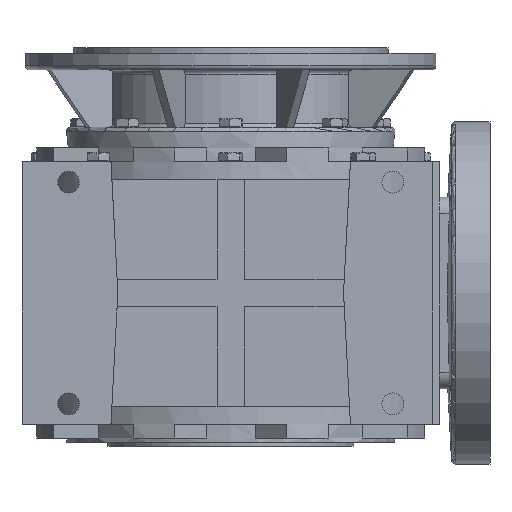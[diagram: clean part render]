
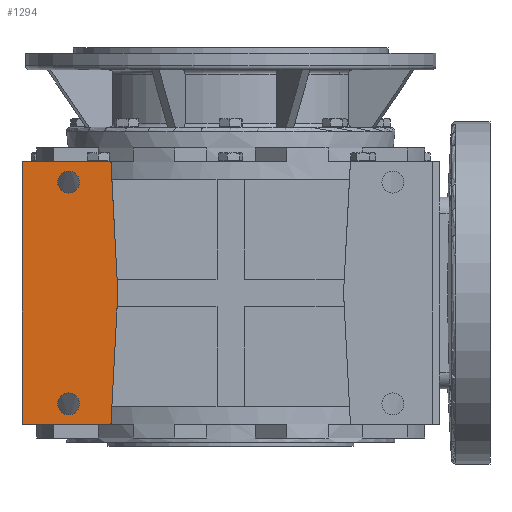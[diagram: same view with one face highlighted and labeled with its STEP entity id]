
A CAD part, front view. The second image highlights one B-rep face of the part: STEP entity #1294.
In plain terms, the highlighted planar face has unit normal (0, -1, 0).
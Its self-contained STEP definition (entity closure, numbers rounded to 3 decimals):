
#1055 = CARTESIAN_POINT ( 'NONE',  ( -118.5, -210., -81. ) ) ;
#1120 = EDGE_LOOP ( 'NONE', ( #27549 ) ) ;
#1253 = EDGE_CURVE ( 'NONE', #2176, #27514, #17119, .T. ) ;
#1294 = ADVANCED_FACE ( 'NONE', ( #16898, #16515, #16545 ), #16922, .F. ) ;
#1354 = EDGE_CURVE ( 'NONE', #6171, #27068, #15840, .T. ) ;
#1659 = EDGE_CURVE ( 'NONE', #30277, #30277, #13877, .T. ) ;
#2176 = VERTEX_POINT ( 'NONE', #6637 ) ;
#3297 = CIRCLE ( 'NONE', #16887, 8. ) ;
#4072 = DIRECTION ( 'NONE',  ( 0., 0., -1. ) ) ;
#5977 = DIRECTION ( 'NONE',  ( 0., -1., 0. ) ) ;
#6171 = VERTEX_POINT ( 'NONE', #31759 ) ;
#6637 = CARTESIAN_POINT ( 'NONE',  ( -87.5, -210., 96. ) ) ;
#6722 = ORIENTED_EDGE ( 'NONE', *, *, #17083, .F. ) ;
#7355 = ORIENTED_EDGE ( 'NONE', *, *, #20876, .F. ) ;
#8435 = CARTESIAN_POINT ( 'NONE',  ( -87.5, -210., 96. ) ) ;
#10778 = ORIENTED_EDGE ( 'NONE', *, *, #33997, .T. ) ;
#11195 = DIRECTION ( 'NONE',  ( 0., 0., 1. ) ) ;
#11371 = DIRECTION ( 'NONE',  ( -1., 0., 0. ) ) ;
#11451 = CARTESIAN_POINT ( 'NONE',  ( -87.5, -210., -96. ) ) ;
#11661 = ORIENTED_EDGE ( 'NONE', *, *, #1253, .F. ) ;
#11846 = VECTOR ( 'NONE', #27668, 1000. ) ;
#12239 = LINE ( 'NONE', #24855, #11846 ) ;
#13273 = AXIS2_PLACEMENT_3D ( 'NONE', #19809, #28330, #11195 ) ;
#13877 = CIRCLE ( 'NONE', #29705, 8. ) ;
#15840 = LINE ( 'NONE', #11451, #15958 ) ;
#15958 = VECTOR ( 'NONE', #34009, 1000. ) ;
#16273 = EDGE_CURVE ( 'NONE', #25884, #25884, #3297, .T. ) ;
#16515 = FACE_BOUND ( 'NONE', #25396, .T. ) ;
#16545 = FACE_OUTER_BOUND ( 'NONE', #35583, .T. ) ;
#16655 = VECTOR ( 'NONE', #33533, 1000. ) ;
#16800 = CARTESIAN_POINT ( 'NONE',  ( -82.469, -210., 0. ) ) ;
#16887 = AXIS2_PLACEMENT_3D ( 'NONE', #23399, #5977, #26199 ) ;
#16898 = FACE_BOUND ( 'NONE', #1120, .T. ) ;
#16922 = PLANE ( 'NONE',  #13273 ) ;
#17083 = EDGE_CURVE ( 'NONE', #27068, #32784, #36768, .T. ) ;
#17119 = LINE ( 'NONE', #16800, #16655 ) ;
#17545 = ORIENTED_EDGE ( 'NONE', *, *, #16273, .F. ) ;
#17876 = CARTESIAN_POINT ( 'NONE',  ( -152.5, -210., 96. ) ) ;
#19620 = CARTESIAN_POINT ( 'NONE',  ( -152.5, -210., -96. ) ) ;
#19809 = CARTESIAN_POINT ( 'NONE',  ( -87.5, -210., -96. ) ) ;
#20876 = EDGE_CURVE ( 'NONE', #27514, #6171, #12239, .T. ) ;
#21572 = DIRECTION ( 'NONE',  ( 0., -1., 0. ) ) ;
#22549 = DIRECTION ( 'NONE',  ( 0., 0., 1. ) ) ;
#23399 = CARTESIAN_POINT ( 'NONE',  ( -118.5, -210., 81. ) ) ;
#23863 = CARTESIAN_POINT ( 'NONE',  ( -118.5, -210., -89. ) ) ;
#23873 = CARTESIAN_POINT ( 'NONE',  ( -152.5, -210., -96. ) ) ;
#23967 = VECTOR ( 'NONE', #11371, 1000. ) ;
#24105 = LINE ( 'NONE', #8435, #23967 ) ;
#24855 = CARTESIAN_POINT ( 'NONE',  ( -87.5, -210., -96. ) ) ;
#25396 = EDGE_LOOP ( 'NONE', ( #17545 ) ) ;
#25884 = VERTEX_POINT ( 'NONE', #30387 ) ;
#26199 = DIRECTION ( 'NONE',  ( 0., 0., -1. ) ) ;
#27068 = VERTEX_POINT ( 'NONE', #23873 ) ;
#27514 = VERTEX_POINT ( 'NONE', #28795 ) ;
#27549 = ORIENTED_EDGE ( 'NONE', *, *, #1659, .F. ) ;
#27668 = DIRECTION ( 'NONE',  ( -0.052, 0., -0.999 ) ) ;
#28330 = DIRECTION ( 'NONE',  ( 0., 1., 0. ) ) ;
#28795 = CARTESIAN_POINT ( 'NONE',  ( -82.469, -210., 0. ) ) ;
#29705 = AXIS2_PLACEMENT_3D ( 'NONE', #1055, #21572, #4072 ) ;
#30277 = VERTEX_POINT ( 'NONE', #23863 ) ;
#30387 = CARTESIAN_POINT ( 'NONE',  ( -118.5, -210., 73. ) ) ;
#31759 = CARTESIAN_POINT ( 'NONE',  ( -87.5, -210., -96. ) ) ;
#32784 = VERTEX_POINT ( 'NONE', #17876 ) ;
#33147 = ORIENTED_EDGE ( 'NONE', *, *, #1354, .F. ) ;
#33533 = DIRECTION ( 'NONE',  ( 0.052, 0., -0.999 ) ) ;
#33997 = EDGE_CURVE ( 'NONE', #2176, #32784, #24105, .T. ) ;
#34009 = DIRECTION ( 'NONE',  ( -1., 0., 0. ) ) ;
#35583 = EDGE_LOOP ( 'NONE', ( #10778, #6722, #33147, #7355, #11661 ) ) ;
#36670 = VECTOR ( 'NONE', #22549, 1000. ) ;
#36768 = LINE ( 'NONE', #19620, #36670 ) ;
